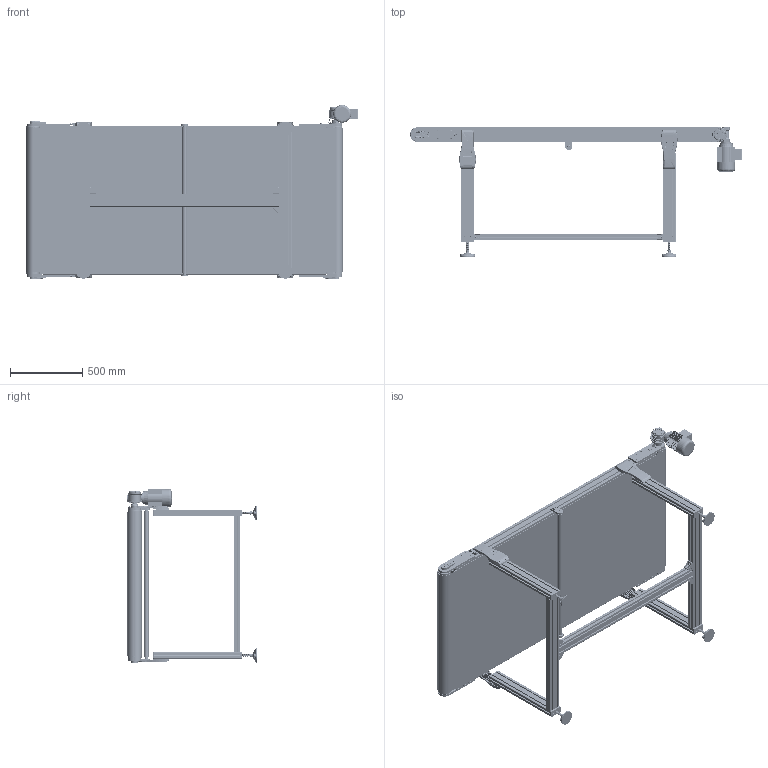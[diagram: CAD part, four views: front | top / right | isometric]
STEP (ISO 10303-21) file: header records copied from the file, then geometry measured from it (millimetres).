
FILE_DESCRIPTION (( 'STEP AP203' ), '1' );
FILE_NAME ('NASTRO_RETTILINEO_TAPPETO.step', '2026-04-24T12:24:47', ( 'Utente Windows' ), ( '' ), 'SwSTEP 2.0', 'SolidWorks 2024', '' );
FILE_SCHEMA (( 'CONFIG_CONTROL_DESIGN' ));
Length unit declared in the file: millimetre
Products named in the file (67): 084.305.003-1; 084.808.012; 084.810.003; 084.802.034_084.802.034; 084.808.002_084.808.002; 084.812.001; BLOCCO_TRAINO_95_STANDARD_CON TENDINASTRO E CARTER; 084.405.001; CHIAVETTE_A 6x6x60 UNI 6604-69; RONDELLE UNI 6592_8.4x17 UNI 6592; 084.802.068; 30UNI7435; GAMBE_D95_Default<A macchina>; PIEDE_95; BLOCCO_PERNO_95_44; VITI TE UNI 5739_M6x16 UNI 5739; CHIAVETTE_A 8x7x20 UNI 6604-69; VITE_RONDELLA_M8X20; NASTRO_RETTILINEO_TAPPETO; VITI TSEI UNI 5933_M5x12 UNI 5933; 084.802.013-2; BLOCCO_BRACCIO_CH04P_V2_VF44P V2; ANGOLARE_43; 084.402.005; VITI TCEI UNI 5931_M6x12 UNI 5931; 084.802.014; VITI TE UNI 5739_M6x12 UNI 5739; 084.201.019; BLOCCO_RINVIO_95_STANDARD_CON TENDINASTRO E CARTER; FLANGIA_GAMBA_95_CON GIUNTI; 084.803.003; 084.802.028; 2010.000.074; CH04P_DX; 2010.000.072_L_Default<A macchina>; BLOCCO_REGGITAPPETO; 2010.000.073; TRAVERSA_95_Default<A macchina>; TAPPETO_STANDARD; 084.301.000 VITI ALUSIC_084.301.003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
Assembly tree (198 placements, depth 4):
  NASTRO_RETTILINEO_TAPPETO
    TAPPETO_STANDARD
    TELAIO_95_STANDARD_Default<A macchina>
    LAMIERA_STANDARD
    RULLO_95_Default<A macchina>  x2
    BLOCCO_PERNO_95_44
      084.812.001
      084.810.003
      CHIAVETTE_A 6x6x60 UNI 6604-69
      CHIAVETTE_A 8x7x20 UNI 6604-69
      RONDELLE FASCIA LARGA UNI 6593_6.4x24 UNI 6593
      VITI TE UNI 5739_M6x12 UNI 5739
      30UNI7435
    BLOCCO_TRAINO_95_STANDARD_44_DX_dx
      084.808.003_084.808.003
      084.302.060  x2
      084.802.034_084.802.034
      084.301.000 VITI ALUSIC_084.301.003  x6
      VITI TCEI UNI 5931_M4x25 UNI 5931  x2
      084.802.067_Default<A macchina>
      BLOCCO_BRACCIO_CH04P_V2_VF44P V2
        084.808.012
        084.802.062
        084.803.018
        VITI TCEI UNI 5931_M6x12 UNI 5931  x4
        VITI TE UNI 5739_M6x16 UNI 5739  x4
        084.802.060_Default<A macchina>
    BLOCCO_PERNO_95_RINVIO  x3
      084.812.003
      084.810.003
      30UNI7435
    BLOCCO_TRAINO_95_STANDARD_CON TENDINASTRO E CARTER
      084.808.002_084.808.002
      084.302.060  x2
      084.802.019_084.802.019
      084.301.000 VITI ALUSIC_084.301.003  x6
      VITI TCEI UNI 5931_M4x25 UNI 5931  x2
      084.802.071
      084.802.068
      VITI TSEI UNI 5933_M4x12 UNI 5933  x2
    BLOCCO_RINVIO_95_STANDARD_CON TENDINASTRO E CARTER  x2
      084.808.002_084.808.002
      084.803.003
      084.302.060
      084.802.019_084.802.019
      VITI TSEI UNI 5933_M4x12 UNI 5933
      084.302.000 DADI ALUSIC 13x13-1_084.302.004
      084.301.000 VITI ALUSIC_084.301.003
      084.802.071
    GAMBE_D95_Default<A macchina>  x2
    FLANGIA_GAMBA_95_CON GIUNTI
      2010.000.072
        2010.000.072_L_Default<A macchina>
        2010.000.073
        2010.000.074
      084.302.000 DADI ALUSIC 13x13-1_084.302.004  x6
      RONDELLE UNI 6592_8.4x17 UNI 6592  x7
      084.301.000 VITI ALUSIC1_084.301.003  x7
    FLANGIA_GAMBA_95_CON GIUNTI  x3
      2010.000.072
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Bounding box: 2304.1 x 904.5 x 1206.5 mm (x, y, z)
Volume: 38564006.3 mm3; surface area: 29832963.7 mm2
Topology: 347 solids, 358 shells, 16928 faces, 44123 edges, 28242 vertices
Faces by surface type: plane 7633, cylinder 4613, bspline 1870, cone 1519, torus 1157, sphere 136
Entity records: 270265 total; most frequent: CARTESIAN_POINT 99894, ORIENTED_EDGE 35208, DIRECTION 31208, EDGE_CURVE 17604, VERTEX_POINT 11338, AXIS2_PLACEMENT_3D 10663, VECTOR 9882, LINE 9882
